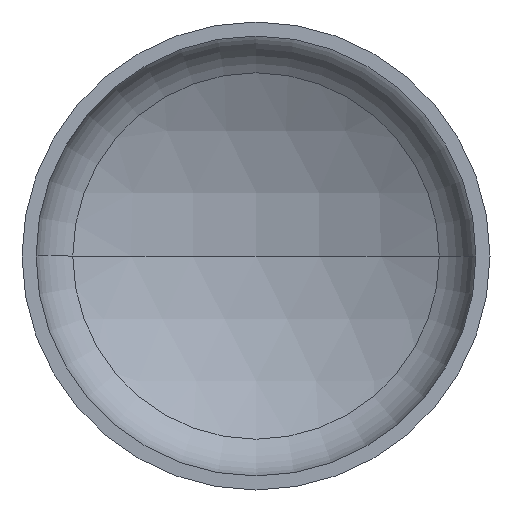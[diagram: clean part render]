
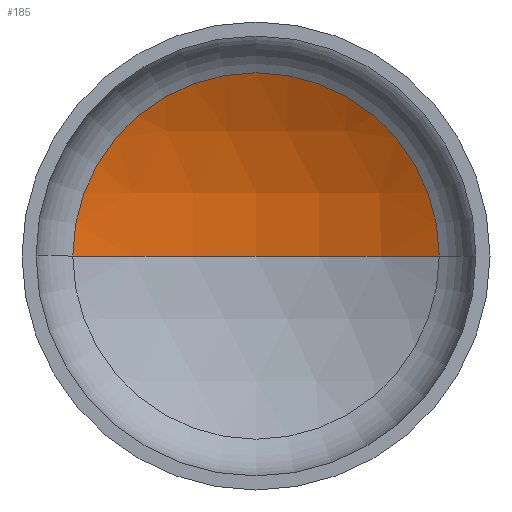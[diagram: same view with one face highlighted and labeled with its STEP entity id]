
A CAD part, front view. The second image highlights one B-rep face of the part: STEP entity #185.
In plain terms, the highlighted spherical face has radius 2080 mm.
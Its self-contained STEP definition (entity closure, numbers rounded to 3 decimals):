
#18 = ORIENTED_EDGE ( 'NONE', *, *, #151, .T. ) ;
#19 = AXIS2_PLACEMENT_3D ( 'NONE', #132, #315, #351 ) ;
#31 = VERTEX_POINT ( 'NONE', #275 ) ;
#38 = AXIS2_PLACEMENT_3D ( 'NONE', #110, #270, #108 ) ;
#42 = AXIS2_PLACEMENT_3D ( 'NONE', #91, #75, #67 ) ;
#44 = VERTEX_POINT ( 'NONE', #262 ) ;
#62 = AXIS2_PLACEMENT_3D ( 'NONE', #197, #198, #221 ) ;
#66 = VERTEX_POINT ( 'NONE', #236 ) ;
#67 = DIRECTION ( 'NONE',  ( -1., 0., 0. ) ) ;
#73 = ORIENTED_EDGE ( 'NONE', *, *, #369, .F. ) ;
#75 = DIRECTION ( 'NONE',  ( 0., 0., -1. ) ) ;
#76 = ORIENTED_EDGE ( 'NONE', *, *, #170, .T. ) ;
#91 = CARTESIAN_POINT ( 'NONE',  ( 0., -1345.168, 0. ) ) ;
#101 = CIRCLE ( 'NONE', #42, 2080. ) ;
#108 = DIRECTION ( 'NONE',  ( -1., 0., 0. ) ) ;
#110 = CARTESIAN_POINT ( 'NONE',  ( 0., -1345.168, 0. ) ) ;
#132 = CARTESIAN_POINT ( 'NONE',  ( 0., -1345.168, 0. ) ) ;
#150 = CIRCLE ( 'NONE', #19, 2080. ) ;
#151 = EDGE_CURVE ( 'NONE', #66, #31, #190, .T. ) ;
#164 = EDGE_LOOP ( 'NONE', ( #73, #76, #18 ) ) ;
#170 = EDGE_CURVE ( 'NONE', #44, #66, #101, .T. ) ;
#185 = ADVANCED_FACE ( 'NONE', ( #372 ), #316, .F. ) ;
#190 = CIRCLE ( 'NONE', #62, 1017.714 ) ;
#197 = CARTESIAN_POINT ( 'NONE',  ( 0., 468.849, 0. ) ) ;
#198 = DIRECTION ( 'NONE',  ( 0., -1., 0. ) ) ;
#221 = DIRECTION ( 'NONE',  ( 1., 0., 0. ) ) ;
#236 = CARTESIAN_POINT ( 'NONE',  ( 1017.714, 468.849, 0. ) ) ;
#262 = CARTESIAN_POINT ( 'NONE',  ( 0., 734.832, 0. ) ) ;
#270 = DIRECTION ( 'NONE',  ( 0., 0., -1. ) ) ;
#275 = CARTESIAN_POINT ( 'NONE',  ( -1017.714, 468.849, 0. ) ) ;
#315 = DIRECTION ( 'NONE',  ( 0., 0., 1. ) ) ;
#316 = SPHERICAL_SURFACE ( 'NONE', #38, 2080. ) ;
#351 = DIRECTION ( 'NONE',  ( 1., 0., 0. ) ) ;
#369 = EDGE_CURVE ( 'NONE', #44, #31, #150, .T. ) ;
#372 = FACE_OUTER_BOUND ( 'NONE', #164, .T. ) ;
